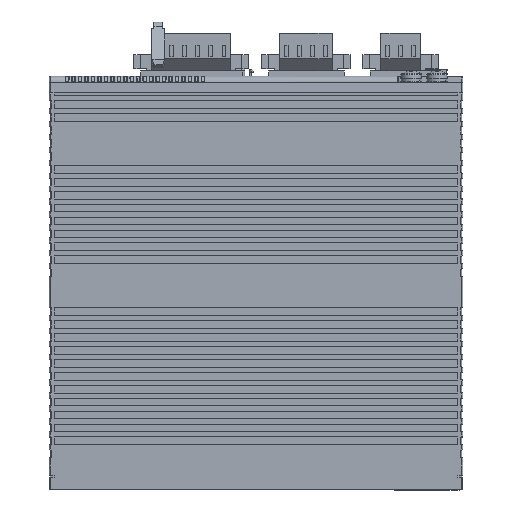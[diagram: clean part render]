
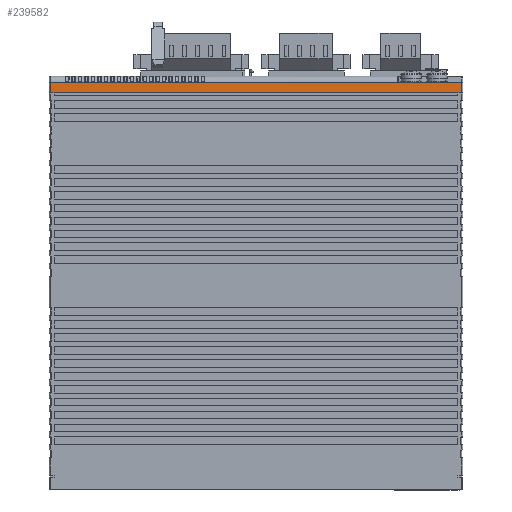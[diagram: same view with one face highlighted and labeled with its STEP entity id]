
A CAD part, left-side view. The second image highlights one B-rep face of the part: STEP entity #239582.
In plain terms, the highlighted planar face has unit normal (-0.999, 0, 0.035).
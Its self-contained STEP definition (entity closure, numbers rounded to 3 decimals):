
#5974 = ORIENTED_EDGE ( 'NONE', *, *, #16000, .F. ) ;
#6085 = LINE ( 'NONE', #69967, #37625 ) ;
#15158 = CARTESIAN_POINT ( 'NONE',  ( -98.991, 159.5, -2.413 ) ) ;
#16000 = EDGE_CURVE ( 'NONE', #55465, #23425, #140797, .T. ) ;
#16653 = ORIENTED_EDGE ( 'NONE', *, *, #113811, .T. ) ;
#20658 = EDGE_CURVE ( 'NONE', #38879, #208598, #327516, .T. ) ;
#23425 = VERTEX_POINT ( 'NONE', #375917 ) ;
#24838 = VECTOR ( 'NONE', #303841, 1000. ) ;
#26669 = CARTESIAN_POINT ( 'NONE',  ( -99.134, 158., -6.5 ) ) ;
#31417 = VERTEX_POINT ( 'NONE', #15158 ) ;
#32075 = ORIENTED_EDGE ( 'NONE', *, *, #319970, .T. ) ;
#33093 = DIRECTION ( 'NONE',  ( 0.999, 0., -0.035 ) ) ;
#37625 = VECTOR ( 'NONE', #106855, 1000. ) ;
#38879 = VERTEX_POINT ( 'NONE', #404379 ) ;
#39660 = VECTOR ( 'NONE', #359143, 1000. ) ;
#46925 = CARTESIAN_POINT ( 'NONE',  ( -98.888, 25.36, 0.552 ) ) ;
#50974 = VECTOR ( 'NONE', #403611, 1000. ) ;
#52149 = DIRECTION ( 'NONE',  ( -0.035, 0., -0.999 ) ) ;
#53330 = DIRECTION ( 'NONE',  ( 0., 1., 0. ) ) ;
#55465 = VERTEX_POINT ( 'NONE', #222447 ) ;
#66057 = DIRECTION ( 'NONE',  ( 0., -1., 0. ) ) ;
#69967 = CARTESIAN_POINT ( 'NONE',  ( -99.134, -0.087, -6.5 ) ) ;
#75282 = VECTOR ( 'NONE', #53330, 1000. ) ;
#88726 = DIRECTION ( 'NONE',  ( -0.035, 0., -0.999 ) ) ;
#92854 = FACE_OUTER_BOUND ( 'NONE', #116096, .T. ) ;
#102257 = ORIENTED_EDGE ( 'NONE', *, *, #328771, .T. ) ;
#106855 = DIRECTION ( 'NONE',  ( 0., 1., 0. ) ) ;
#107892 = CARTESIAN_POINT ( 'NONE',  ( -99.134, 160.087, -6.5 ) ) ;
#110895 = VECTOR ( 'NONE', #386845, 1000. ) ;
#113811 = EDGE_CURVE ( 'NONE', #55465, #359844, #403368, .T. ) ;
#116096 = EDGE_LOOP ( 'NONE', ( #16653, #294368, #102257, #185427, #32075, #156069, #341777, #5974 ) ) ;
#117735 = AXIS2_PLACEMENT_3D ( 'NONE', #247338, #33093, #66057 ) ;
#119620 = EDGE_CURVE ( 'NONE', #31417, #294040, #245201, .T. ) ;
#138879 = LINE ( 'NONE', #107892, #39660 ) ;
#140797 = LINE ( 'NONE', #332258, #162173 ) ;
#156069 = ORIENTED_EDGE ( 'NONE', *, *, #20658, .F. ) ;
#162173 = VECTOR ( 'NONE', #52149, 1000. ) ;
#165167 = VERTEX_POINT ( 'NONE', #381277 ) ;
#169885 = EDGE_CURVE ( 'NONE', #23425, #38879, #6085, .T. ) ;
#179675 = CARTESIAN_POINT ( 'NONE',  ( -98.994, 25.2, -2.5 ) ) ;
#180450 = VECTOR ( 'NONE', #88726, 1000. ) ;
#185427 = ORIENTED_EDGE ( 'NONE', *, *, #119620, .T. ) ;
#188959 = CARTESIAN_POINT ( 'NONE',  ( -99.134, 158., -6.5 ) ) ;
#199346 = EDGE_CURVE ( 'NONE', #359844, #165167, #329093, .T. ) ;
#208598 = VERTEX_POINT ( 'NONE', #188959 ) ;
#222447 = CARTESIAN_POINT ( 'NONE',  ( -98.994, 0.5, -2.5 ) ) ;
#239582 = ADVANCED_FACE ( 'NONE', ( #92854 ), #313305, .F. ) ;
#243142 = CARTESIAN_POINT ( 'NONE',  ( -99.134, 159.5, -6.5 ) ) ;
#245201 = LINE ( 'NONE', #243142, #180450 ) ;
#247338 = CARTESIAN_POINT ( 'NONE',  ( -99.134, 160.087, -6.5 ) ) ;
#274912 = CARTESIAN_POINT ( 'NONE',  ( -98.991, 159.5, -2.413 ) ) ;
#294040 = VERTEX_POINT ( 'NONE', #340254 ) ;
#294368 = ORIENTED_EDGE ( 'NONE', *, *, #199346, .T. ) ;
#303841 = DIRECTION ( 'NONE',  ( 0., 1., 0. ) ) ;
#309912 = LINE ( 'NONE', #274912, #24838 ) ;
#313305 = PLANE ( 'NONE',  #117735 ) ;
#319970 = EDGE_CURVE ( 'NONE', #294040, #208598, #138879, .T. ) ;
#327516 = LINE ( 'NONE', #26669, #50974 ) ;
#328771 = EDGE_CURVE ( 'NONE', #165167, #31417, #309912, .T. ) ;
#329093 = LINE ( 'NONE', #46925, #110895 ) ;
#332258 = CARTESIAN_POINT ( 'NONE',  ( -99.134, 0.5, -6.5 ) ) ;
#340254 = CARTESIAN_POINT ( 'NONE',  ( -99.134, 159.5, -6.5 ) ) ;
#341777 = ORIENTED_EDGE ( 'NONE', *, *, #169885, .F. ) ;
#359143 = DIRECTION ( 'NONE',  ( 0., -1., 0. ) ) ;
#359844 = VERTEX_POINT ( 'NONE', #179675 ) ;
#372394 = CARTESIAN_POINT ( 'NONE',  ( -98.994, 160.087, -2.5 ) ) ;
#375917 = CARTESIAN_POINT ( 'NONE',  ( -99.134, 0.5, -6.5 ) ) ;
#381277 = CARTESIAN_POINT ( 'NONE',  ( -98.991, 25.204, -2.413 ) ) ;
#386845 = DIRECTION ( 'NONE',  ( 0.035, 0.052, 0.998 ) ) ;
#403368 = LINE ( 'NONE', #372394, #75282 ) ;
#403611 = DIRECTION ( 'NONE',  ( 0., 1., 0. ) ) ;
#404379 = CARTESIAN_POINT ( 'NONE',  ( -99.134, 2., -6.5 ) ) ;
